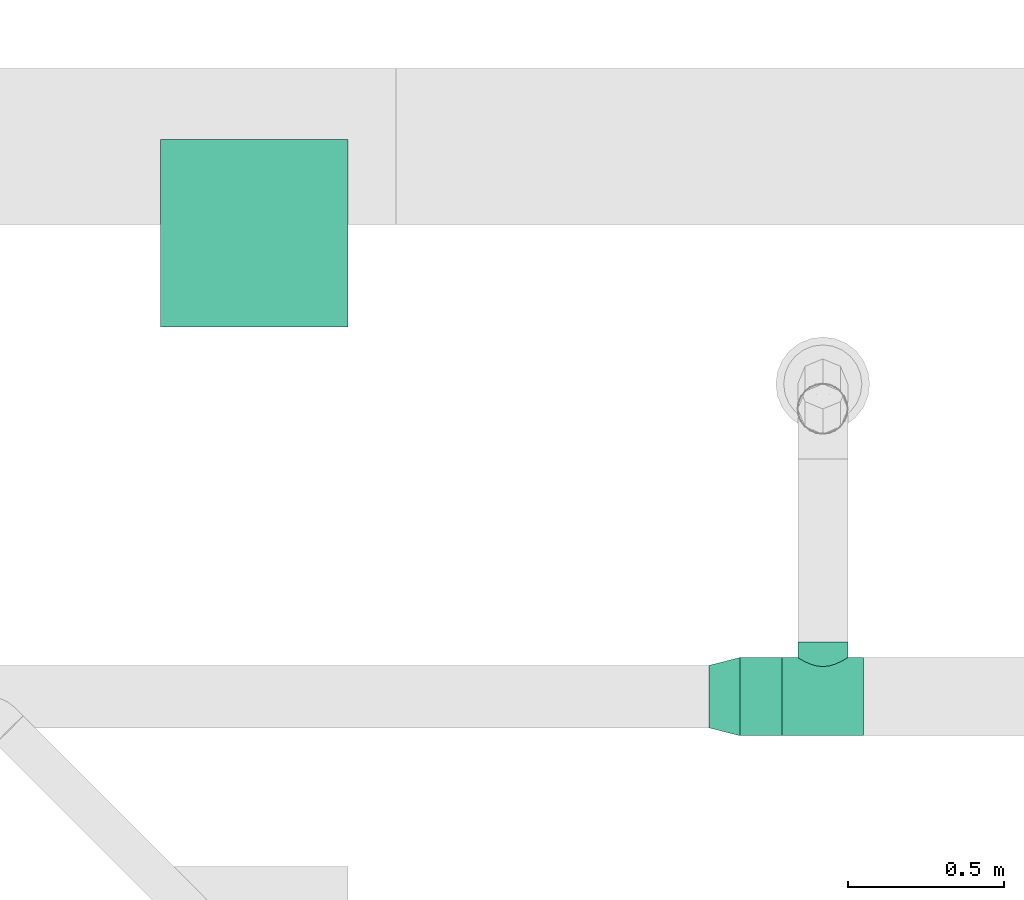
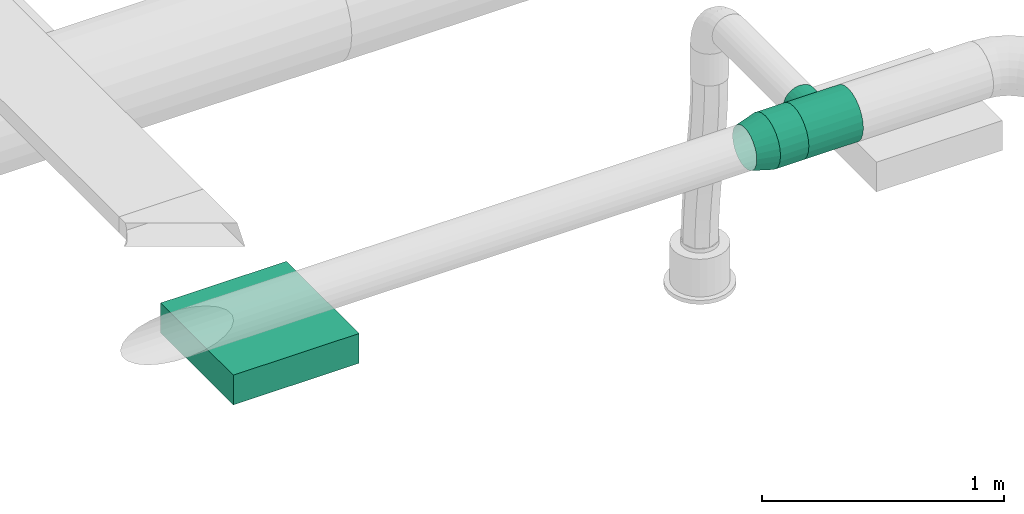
# One storey, part 175 of 374: 2 flow fittings, 1 distribution element, 1 flow segment.
"""IFC2X3 building model written with IfcOpenShell, lengths in metres."""

from ifc_helpers import new_model, si_unit, direction, frame, frame_2d, origin, place, context, subcontext, project, spatial, rectangle, extrude, open_shell, surface_model, source, transform, mapped, element, save


model = new_model("IFC2X3")

# Units and contexts
model_context = context("Model", 3, precision=1e-05, world=origin(), true_north=direction((-0.4480736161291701, 0.8939966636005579)))
body_context = subcontext(model_context, "Body", "Model", "MODEL_VIEW")
ifc_project = project(units=[si_unit("LENGTHUNIT", "METRE"), si_unit("AREAUNIT", "SQUARE_METRE"), si_unit("VOLUMEUNIT", "CUBIC_METRE"), si_unit("PLANEANGLEUNIT", "RADIAN"), si_unit("THERMODYNAMICTEMPERATUREUNIT", "KELVIN"), si_unit("MASSUNIT", "GRAM", prefix="KILO"), si_unit("TIMEUNIT", "SECOND")], contexts=[model_context])

# Site, building, storey
site_placement = place(None, origin())
site = spatial("IfcSite", under=ifc_project, at=site_placement, Name="Site 1", CompositionType="ELEMENT")
building_placement = place(site_placement, origin())
building = spatial("IfcBuilding", under=site, at=building_placement, Name="Undefined", CompositionType="ELEMENT")
storey_placement = place(building_placement, origin())
storey = spatial("IfcBuildingStorey", under=building, at=storey_placement, Name="Rez de chauss\x8ee", CompositionType="ELEMENT", Elevation=0.0)

# Flow segment
shared_shape_1 = source(origin(), body_context, "Body", "SurfaceModel", [
    surface_model("IfcFaceBasedSurfaceModel", [(0.0, 0.03263154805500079, 0.0), (0.0, 0.0, 0.0), (0.13500000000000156, -7.105427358e-15, 8.8817842e-16), (0.13500000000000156, 0.03263154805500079, 8.8817842e-16), (0.0, -0.031519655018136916, -0.008445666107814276), (0.13500000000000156, -0.03151965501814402, -0.008445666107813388), (0.0, -0.05977940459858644, -0.024761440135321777), (0.13500000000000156, -0.05977940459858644, -0.02476144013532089), (0.0, -0.08285339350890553, -0.047835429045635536), (0.13500000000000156, -0.08285339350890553, -0.04783542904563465), (0.0, -0.09916916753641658, -0.07609517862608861), (0.13500000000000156, -0.09916916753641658, -0.07609517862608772), (0.0, -0.1076148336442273, -0.10761483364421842), (0.13500000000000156, -0.10761483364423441, -0.10761483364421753), (0.0, -0.1076148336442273, -0.14024638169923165), (0.13500000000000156, -0.1076148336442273, -0.14024638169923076), (0.0, -0.09916916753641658, -0.17176603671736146), (0.13500000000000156, -0.09916916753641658, -0.17176603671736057), (0.0, -0.08285339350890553, -0.2000257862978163), (0.13500000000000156, -0.08285339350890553, -0.20002578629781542), (0.0, -0.059779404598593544, -0.22309977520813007), (0.13500000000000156, -0.05977940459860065, -0.2230997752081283), (0.0, -0.03151965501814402, -0.23941554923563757), (0.13500000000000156, -0.03151965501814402, -0.23941554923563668), (0.0, -1.4210854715e-14, -0.24786121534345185), (0.13500000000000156, -1.4210854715e-14, -0.24786121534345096), (0.0, 0.03263154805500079, -0.24786121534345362), (0.13500000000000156, 0.03263154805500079, -0.24786121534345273), (0.0, 0.0641512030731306, -0.23941554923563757), (0.13500000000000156, 0.0641512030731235, -0.23941554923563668), (0.0, 0.09241095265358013, -0.22309977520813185), (0.13500000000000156, 0.09241095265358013, -0.22309977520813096), (0.0, 0.11548494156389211, -0.2000257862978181), (0.13500000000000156, 0.11548494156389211, -0.2000257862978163), (0.0, 0.13180071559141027, -0.171766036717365), (0.13500000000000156, 0.13180071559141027, -0.17176603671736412), (0.0, 0.140246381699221, -0.1402463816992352), (0.13500000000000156, 0.14024638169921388, -0.14024638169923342), (0.0, 0.140246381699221, -0.10761483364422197), (0.13500000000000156, 0.140246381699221, -0.10761483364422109), (0.0, 0.13180071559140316, -0.07609517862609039), (0.13500000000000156, 0.13180071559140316, -0.07609517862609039), (0.0, 0.11548494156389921, -0.04783542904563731), (0.13500000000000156, 0.11548494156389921, -0.047835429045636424), (0.0, 0.09241095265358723, -0.024761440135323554), (0.13500000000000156, 0.09241095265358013, -0.024761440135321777), (0.0, 0.06415120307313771, -0.008445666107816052), (0.13500000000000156, 0.06415120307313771, -0.008445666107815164)], [open_shell([[[0, 1, 2, 3]], [[1, 4, 5, 2]], [[4, 6, 7, 5]], [[6, 8, 9, 7]], [[8, 10, 11, 9]], [[10, 12, 13, 11]], [[12, 14, 15, 13]], [[14, 16, 17, 15]], [[16, 18, 19, 17]], [[18, 20, 21, 19]], [[20, 22, 23, 21]], [[22, 24, 25, 23]], [[24, 26, 27, 25]], [[26, 28, 29, 27]], [[28, 30, 31, 29]], [[30, 32, 33, 31]], [[32, 34, 35, 33]], [[34, 36, 37, 35]], [[36, 38, 39, 37]], [[38, 40, 41, 39]], [[40, 42, 43, 41]], [[42, 44, 45, 43]], [[44, 46, 47, 45]], [[46, 0, 3, 47]]])]),
])
flow_segment_placement = place(storey_placement, origin())
element("IfcFlowSegment", 1, at=flow_segment_placement, inside=storey, Name="Manchon", ObjectType="Manchon", context=body_context, shape_type="MappedRepresentation", body=[
    mapped(shared_shape_1, transform((60.15924025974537, 15.987350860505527, 3.920740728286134), x_axis=(-1.0, 0.0, 0.0), y_axis=(7.266545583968e-12, -0.9914448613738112, 0.13052619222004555), z_axis=(0.0, 0.13052619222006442, 0.9914448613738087))),
])

# Flow fittings
shared_shape_2 = source(origin(), body_context, "Body", "SurfaceModel", [
    surface_model("IfcFaceBasedSurfaceModel", [(0.0, 0.03263154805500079, 0.0), (0.0, 0.0, 0.0), (0.2599999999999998, -7.105427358e-15, 0.0), (0.2599999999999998, 0.03263154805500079, 0.0), (0.0, -0.031519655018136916, -0.008445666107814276), (0.2599999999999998, -0.031519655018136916, -0.008445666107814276), (0.0, -0.05977940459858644, -0.024761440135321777), (0.2599999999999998, -0.05977940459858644, -0.024761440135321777), (0.0, -0.08285339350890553, -0.047835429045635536), (0.2599999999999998, -0.08285339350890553, -0.047835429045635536), (0.0, -0.09916916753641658, -0.07609517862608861), (0.2599999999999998, -0.09916916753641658, -0.07609517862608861), (0.0, -0.1076148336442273, -0.10761483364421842), (0.2599999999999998, -0.1076148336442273, -0.10761483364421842), (0.0, -0.1076148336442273, -0.14024638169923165), (0.2599999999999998, -0.1076148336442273, -0.14024638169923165), (0.0, -0.09916916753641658, -0.17176603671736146), (0.2599999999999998, -0.09916916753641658, -0.17176603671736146), (0.0, -0.08285339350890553, -0.2000257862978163), (0.2599999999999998, -0.08285339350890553, -0.2000257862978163), (0.0, -0.059779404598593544, -0.22309977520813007), (0.2599999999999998, -0.059779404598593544, -0.22309977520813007), (0.0, -0.03151965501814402, -0.23941554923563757), (0.2599999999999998, -0.03151965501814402, -0.23941554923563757), (0.0, -1.4210854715e-14, -0.24786121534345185), (0.2599999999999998, -1.4210854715e-14, -0.24786121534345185), (0.0, 0.03263154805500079, -0.24786121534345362), (0.2599999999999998, 0.03263154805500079, -0.24786121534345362), (0.0, 0.0641512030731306, -0.23941554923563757), (0.2599999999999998, 0.0641512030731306, -0.23941554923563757), (0.0, 0.09241095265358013, -0.22309977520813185), (0.2599999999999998, 0.09241095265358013, -0.22309977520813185), (0.0, 0.11548494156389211, -0.2000257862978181), (0.2599999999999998, 0.11548494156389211, -0.2000257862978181), (0.0, 0.13180071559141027, -0.171766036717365), (0.2599999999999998, 0.13180071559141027, -0.171766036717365), (0.0, 0.140246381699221, -0.1402463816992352), (0.2599999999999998, 0.140246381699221, -0.1402463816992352), (0.0, 0.140246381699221, -0.10761483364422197), (0.2599999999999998, 0.140246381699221, -0.10761483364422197), (0.0, 0.13180071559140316, -0.07609517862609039), (0.2599999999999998, 0.13180071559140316, -0.07609517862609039), (0.0, 0.11548494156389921, -0.04783542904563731), (0.2599999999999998, 0.11548494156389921, -0.04783542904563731), (0.0, 0.09241095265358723, -0.024761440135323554), (0.2599999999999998, 0.09241095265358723, -0.024761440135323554), (0.0, 0.06415120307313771, -0.008445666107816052), (0.2599999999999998, 0.06415120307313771, -0.008445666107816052), (0.20999999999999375, 0.14024638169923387, -0.14024638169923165), (0.2072740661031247, 0.1358317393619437, -0.1605493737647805), (0.2072740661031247, 0.18711601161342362, -0.16730107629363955), (0.20999999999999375, 0.18981862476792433, -0.14677269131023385), (0.19928203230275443, 0.12850875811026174, -0.17904625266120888), (0.19928203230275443, 0.1845975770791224, -0.1864304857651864), (0.18656854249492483, 0.11944596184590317, -0.19456462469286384), (0.18656854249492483, 0.1824349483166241, -0.20285728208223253), (0.1699999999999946, 0.11042580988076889, -0.20620029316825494), (0.1699999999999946, 0.1807755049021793, -0.2154620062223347), (0.15070552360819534, 0.10364225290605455, -0.2133682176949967), (0.15070552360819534, 0.1797323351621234, -0.22338566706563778), (0.12999999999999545, 0.10109884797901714, -0.21578282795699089), (0.12999999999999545, 0.17937652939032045, -0.22608828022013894), (0.10929447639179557, 0.10364225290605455, -0.2133682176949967), (0.10929447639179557, 0.1797323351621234, -0.22338566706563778), (0.0899999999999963, 0.11042580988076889, -0.20620029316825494), (0.0899999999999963, 0.1807755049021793, -0.2154620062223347), (0.07343145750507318, 0.11944596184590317, -0.19456462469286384), (0.07343145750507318, 0.1824349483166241, -0.20285728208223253), (0.06071796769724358, 0.12850875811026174, -0.17904625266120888), (0.06071796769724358, 0.1845975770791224, -0.1864304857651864), (0.052725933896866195, 0.1358317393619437, -0.1605493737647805), (0.052725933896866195, 0.18711601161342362, -0.16730107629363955), (0.04999999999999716, 0.14024638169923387, -0.14024638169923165), (0.04999999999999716, 0.18981862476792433, -0.14677269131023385), (0.052725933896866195, 0.14123696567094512, -0.11949260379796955), (0.052725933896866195, 0.19252123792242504, -0.12624430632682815), (0.06071796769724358, 0.13895085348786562, -0.09973066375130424), (0.06071796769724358, 0.19503967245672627, -0.10711489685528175), (0.07343145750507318, 0.13421331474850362, -0.08239544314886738), (0.07343145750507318, 0.19720230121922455, -0.09068810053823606), (0.0899999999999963, 0.12851204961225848, -0.06882166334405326), (0.0899999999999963, 0.1988617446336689, -0.07808337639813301), (0.10929447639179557, 0.12381483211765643, -0.060142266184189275), (0.10929447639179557, 0.19990491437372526, -0.07015971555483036), (0.12999999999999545, 0.12198303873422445, -0.057151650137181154), (0.12999999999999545, 0.20026072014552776, -0.0674571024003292), (0.15070552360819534, 0.12381483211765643, -0.060142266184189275), (0.15070552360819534, 0.19990491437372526, -0.07015971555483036), (0.1699999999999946, 0.12851204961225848, -0.06882166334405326), (0.1699999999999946, 0.1988617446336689, -0.07808337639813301), (0.18656854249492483, 0.13421331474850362, -0.08239544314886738), (0.18656854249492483, 0.19720230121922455, -0.09068810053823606), (0.19928203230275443, 0.13895085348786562, -0.09973066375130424), (0.19928203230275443, 0.19503967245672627, -0.10711489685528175), (0.2072740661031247, 0.14123696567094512, -0.11949260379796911), (0.2072740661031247, 0.19252123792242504, -0.12624430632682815)], [open_shell([[[0, 1, 2, 3]], [[1, 4, 5, 2]], [[4, 6, 7, 5]], [[6, 8, 9, 7]], [[8, 10, 11, 9]], [[10, 12, 13, 11]], [[12, 14, 15, 13]], [[14, 16, 17, 15]], [[16, 18, 19, 17]], [[18, 20, 21, 19]], [[20, 22, 23, 21]], [[22, 24, 25, 23]], [[24, 26, 27, 25]], [[26, 28, 29, 27]], [[28, 30, 31, 29]], [[30, 32, 33, 31]], [[32, 34, 35, 33]], [[34, 36, 37, 35]], [[36, 38, 39, 37]], [[38, 40, 41, 39]], [[40, 42, 43, 41]], [[42, 44, 45, 43]], [[44, 46, 47, 45]], [[46, 0, 3, 47]], [[48, 49, 50, 51]], [[49, 52, 53, 50]], [[52, 54, 55, 53]], [[54, 56, 57, 55]], [[56, 58, 59, 57]], [[58, 60, 61, 59]], [[60, 62, 63, 61]], [[62, 64, 65, 63]], [[64, 66, 67, 65]], [[66, 68, 69, 67]], [[68, 70, 71, 69]], [[70, 72, 73, 71]], [[72, 74, 75, 73]], [[74, 76, 77, 75]], [[76, 78, 79, 77]], [[78, 80, 81, 79]], [[80, 82, 83, 81]], [[82, 84, 85, 83]], [[84, 86, 87, 85]], [[86, 88, 89, 87]], [[88, 90, 91, 89]], [[90, 92, 93, 91]], [[92, 94, 95, 93]], [[94, 48, 51, 95]]])]),
])
flow_fitting_1_placement = place(storey_placement, origin())
element("IfcFlowFitting", 2, at=flow_fitting_1_placement, inside=storey, Name="Pièce en té 90°", ObjectType="Pièce en té 90°", context=body_context, shape_type="MappedRepresentation", body=[
    mapped(shared_shape_2, transform((60.15924025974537, 15.922646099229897, 3.920740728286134), x_axis=(1.0, 0.0, 0.0), y_axis=(0.0, 0.9914448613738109, 0.1305261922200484), z_axis=(0.0, -0.1305261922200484, 0.9914448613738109))),
])
shared_shape_3 = source(origin(), body_context, "Body", "SurfaceModel", [
    surface_model("IfcFaceBasedSurfaceModel", [(0.1021077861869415, 8.8817842e-16, 7.105427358e-15), (0.10106494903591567, 0.032614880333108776, -1.443289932e-15), (-0.0008342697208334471, 0.02609190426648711, -1.609823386e-15), (0.0, 0.0, 0.0), (0.09800750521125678, 0.06405288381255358, -0.008192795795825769), (-0.003280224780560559, 0.05124230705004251, -0.006554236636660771), (0.0931438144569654, 0.0921715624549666, -0.02402006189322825), (-0.0071711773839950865, 0.07373724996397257, -0.01921604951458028), (0.08680532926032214, 0.11505467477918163, -0.046403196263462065), (-0.012241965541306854, 0.09204373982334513, -0.03712255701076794), (0.07942400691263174, 0.13114277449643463, -0.07381682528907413), (-0.018147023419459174, 0.10491421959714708, -0.05905346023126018), (0.07150287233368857, 0.13933948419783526, -0.1043927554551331), (-0.024483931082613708, 0.11147158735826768, -0.08351420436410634), (0.0635817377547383, 0.13908621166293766, -0.13604728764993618), (-0.030820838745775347, 0.11126896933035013, -0.10883783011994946), (0.0562004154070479, 0.130400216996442, -0.1666232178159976), (-0.03672589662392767, 0.10432017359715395, -0.13329857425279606), (0.04986193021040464, 0.11387343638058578, -0.19403684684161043), (-0.041796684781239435, 0.09109874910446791, -0.15522947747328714), (0.04499823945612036, 0.09063214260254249, -0.21641998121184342), (-0.04568763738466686, 0.07250571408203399, -0.1731359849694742), (0.04194079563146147, 0.062260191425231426, -0.23224724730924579), (-0.048133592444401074, 0.049808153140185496, -0.18579779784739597), (0.04089795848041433, 0.030691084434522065, -0.24044004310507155), (-0.04896786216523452, 0.02455286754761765, -0.19235203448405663), (0.04194079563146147, -0.0019237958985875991, -0.24044004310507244), (-0.048133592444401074, -0.0015390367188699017, -0.1923520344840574), (0.04499823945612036, -0.033361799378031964, -0.23224724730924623), (-0.04568763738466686, -0.02668943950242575, -0.18579779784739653), (0.04986193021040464, -0.061480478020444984, -0.21641998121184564), (-0.041796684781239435, -0.049184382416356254, -0.1731359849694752), (0.0562004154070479, -0.08436359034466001, -0.19403684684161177), (-0.03672589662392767, -0.06749087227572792, -0.15522947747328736), (0.0635817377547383, -0.10045169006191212, -0.16662321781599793), (-0.030820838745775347, -0.08036135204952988, -0.13329857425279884), (0.07150287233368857, -0.1086483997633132, -0.13604728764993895), (-0.024483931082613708, -0.08691871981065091, -0.1088378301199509), (0.07942400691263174, -0.10839512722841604, -0.10439275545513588), (-0.018147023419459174, -0.08671610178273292, -0.08351420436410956), (0.08680532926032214, -0.09970913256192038, -0.07381682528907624), (-0.012241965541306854, -0.0797673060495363, -0.05905346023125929), (0.0931438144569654, -0.08318235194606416, -0.0464031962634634), (-0.0071711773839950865, -0.0665458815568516, -0.03712255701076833), (0.09800750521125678, -0.059941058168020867, -0.024020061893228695), (-0.003280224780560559, -0.047952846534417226, -0.01921604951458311), (0.10106494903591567, -0.03156910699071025, -0.008192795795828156), (-0.0008342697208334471, -0.02525528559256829, -0.006554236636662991)], [open_shell([[[0, 1, 2, 3]], [[1, 4, 5, 2]], [[4, 6, 7, 5]], [[6, 8, 9, 7]], [[8, 10, 11, 9]], [[10, 12, 13, 11]], [[12, 14, 15, 13]], [[14, 16, 17, 15]], [[16, 18, 19, 17]], [[18, 20, 21, 19]], [[20, 22, 23, 21]], [[22, 24, 25, 23]], [[24, 26, 27, 25]], [[26, 28, 29, 27]], [[28, 30, 31, 29]], [[30, 32, 33, 31]], [[32, 34, 35, 33]], [[34, 36, 37, 35]], [[36, 38, 39, 37]], [[38, 40, 41, 39]], [[40, 42, 43, 41]], [[42, 44, 45, 43]], [[44, 46, 47, 45]], [[46, 0, 3, 47]]])]),
])
flow_fitting_2_placement = place(storey_placement, origin())
element("IfcFlowFitting", 3, at=flow_fitting_2_placement, inside=storey, Name="Réduction conique", ObjectType="Réduction conique", context=body_context, shape_type="MappedRepresentation", body=[
    mapped(shared_shape_3, transform((59.92524025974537, 16.054998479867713, 3.8000000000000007), x_axis=(0.969563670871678, 0.24483931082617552, 0.0), y_axis=(0.03100109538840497, -0.12276433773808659, -0.9919515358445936), z_axis=(-0.24286873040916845, 0.9617601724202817, -0.12661812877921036))),
])

# Distribution element
distribution_element_placement = place(storey_placement, origin())
element("IfcDistributionElement", 4, at=distribution_element_placement, inside=storey, Name="Decken-Rechteckleuchte mit Rahmen AP", ObjectType="Decken-Rechteckleuchte mit Rahmen AP", context=body_context, shape_type="SweptSolid", body=[
    extrude(rectangle(XDim=0.6000000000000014, YDim=0.6000000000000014, at=frame_2d((3.552713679e-15, 0.0), x_axis=(0.0, 1.0))), frame((58.47136596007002, 17.437499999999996, 2.5500000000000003), z_axis=(0.0, 0.0, -1.0), x_axis=(1.0, 0.0, 0.0)), (0.0, 0.0, 1.0), 0.15),
])

save(model, "model.ifc")
